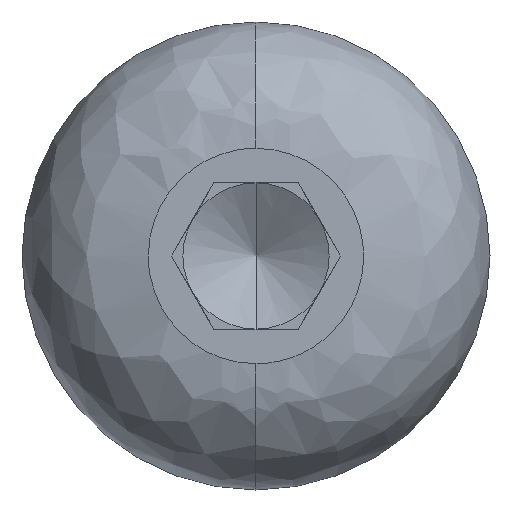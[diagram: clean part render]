
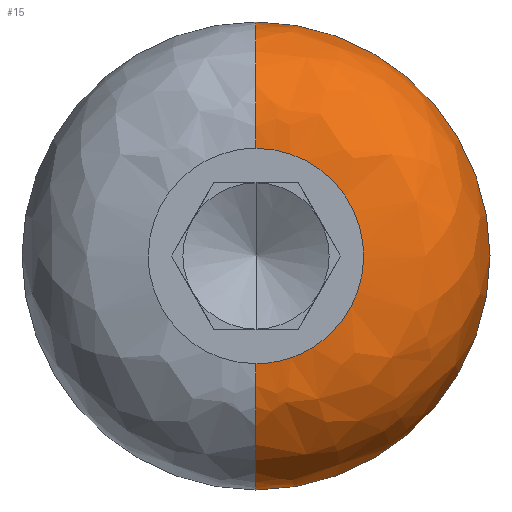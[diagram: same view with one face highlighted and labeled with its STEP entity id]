
A CAD part, left-side view. The second image highlights one B-rep face of the part: STEP entity #15.
In plain terms, the highlighted free-form (B-spline) face has degree [3, 3] with [4, 4] control points.
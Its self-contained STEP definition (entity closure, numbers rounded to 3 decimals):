
#3 = VERTEX_POINT ( 'NONE', #341 ) ;
#15 = ADVANCED_FACE ( 'NONE', ( #293 ), #241, .T. ) ;
#62 = CARTESIAN_POINT ( 'NONE',  ( 2.16, -8., 4. ) ) ;
#64 =( BOUNDED_CURVE ( )  B_SPLINE_CURVE ( 3, ( #436, #330, #549, #218 ),
 .UNSPECIFIED., .F., .F. ) 
 B_SPLINE_CURVE_WITH_KNOTS ( ( 4, 4 ),
 ( 0., 1. ),
 .UNSPECIFIED. ) 
 CURVE ( )  GEOMETRIC_REPRESENTATION_ITEM ( )  RATIONAL_B_SPLINE_CURVE ( ( 1., 0.333, 0.333, 1. ) ) 
 REPRESENTATION_ITEM ( '' )  );
#78 = CIRCLE ( 'NONE', #644, 4. ) ;
#87 = DIRECTION ( 'NONE',  ( 0., 1., 0. ) ) ;
#92 = DIRECTION ( 'NONE',  ( 1., 0., 0. ) ) ;
#104 = DIRECTION ( 'NONE',  ( 0., -1., 0. ) ) ;
#108 = VERTEX_POINT ( 'NONE', #338 ) ;
#124 = CARTESIAN_POINT ( 'NONE',  ( 2.16, -8., -4. ) ) ;
#126 = CARTESIAN_POINT ( 'NONE',  ( 0.895, -8., 4. ) ) ;
#132 = CARTESIAN_POINT ( 'NONE',  ( 2.16, 0., -4. ) ) ;
#156 = CARTESIAN_POINT ( 'NONE',  ( 0.895, 0., 4. ) ) ;
#158 = CARTESIAN_POINT ( 'NONE',  ( 2.16, 0., 0. ) ) ;
#191 = CARTESIAN_POINT ( 'NONE',  ( 0.895, -8., -4. ) ) ;
#192 = CIRCLE ( 'NONE', #737, 2.16 ) ;
#195 = CARTESIAN_POINT ( 'NONE',  ( 0.895, 0., -4. ) ) ;
#205 = CARTESIAN_POINT ( 'NONE',  ( 0., -6.211, 3.105 ) ) ;
#218 = CARTESIAN_POINT ( 'NONE',  ( 0., 0., -1.84 ) ) ;
#220 = CARTESIAN_POINT ( 'NONE',  ( 0., -6.211, -3.105 ) ) ;
#233 = CARTESIAN_POINT ( 'NONE',  ( 0., 0., 3.105 ) ) ;
#241 =( BOUNDED_SURFACE ( )  B_SPLINE_SURFACE ( 3, 3, ( 
 ( #447, #267, #255, #484 ),
 ( #260, #220, #205, #233 ),
 ( #195, #191, #126, #156 ),
 ( #132, #124, #62, #429 ) ),
 .UNSPECIFIED., .F., .F., .T. ) 
 B_SPLINE_SURFACE_WITH_KNOTS ( ( 4, 4 ),
 ( 4, 4 ),
 ( 0., 1. ),
 ( 0., 1. ),
 .UNSPECIFIED. ) 
 GEOMETRIC_REPRESENTATION_ITEM ( )  RATIONAL_B_SPLINE_SURFACE ( (
 ( 1., 0.333, 0.333, 1.),
 ( 0.805, 0.268, 0.268, 0.805),
 ( 0.805, 0.268, 0.268, 0.805),
 ( 1., 0.333, 0.333, 1.) ) ) 
 REPRESENTATION_ITEM ( '' )  SURFACE ( )  );
#255 = CARTESIAN_POINT ( 'NONE',  ( 0., -3.68, 1.84 ) ) ;
#260 = CARTESIAN_POINT ( 'NONE',  ( 0., 0., -3.105 ) ) ;
#267 = CARTESIAN_POINT ( 'NONE',  ( 0., -3.68, -1.84 ) ) ;
#293 = FACE_OUTER_BOUND ( 'NONE', #515, .T. ) ;
#311 = EDGE_CURVE ( 'NONE', #593, #3, #78, .T. ) ;
#330 = CARTESIAN_POINT ( 'NONE',  ( 0., -3.68, 1.84 ) ) ;
#338 = CARTESIAN_POINT ( 'NONE',  ( 0., 0., 1.84 ) ) ;
#341 = CARTESIAN_POINT ( 'NONE',  ( 2.16, 0., -4. ) ) ;
#365 = VERTEX_POINT ( 'NONE', #564 ) ;
#429 = CARTESIAN_POINT ( 'NONE',  ( 2.16, 0., 4. ) ) ;
#436 = CARTESIAN_POINT ( 'NONE',  ( 0., 0., 1.84 ) ) ;
#443 = CARTESIAN_POINT ( 'NONE',  ( 2.16, 0., 1.84 ) ) ;
#447 = CARTESIAN_POINT ( 'NONE',  ( 0., 0., -1.84 ) ) ;
#456 = ORIENTED_EDGE ( 'NONE', *, *, #647, .F. ) ;
#457 = CARTESIAN_POINT ( 'NONE',  ( 2.16, 0., -1.84 ) ) ;
#460 = ORIENTED_EDGE ( 'NONE', *, *, #311, .F. ) ;
#484 = CARTESIAN_POINT ( 'NONE',  ( 0., 0., 1.84 ) ) ;
#495 = ORIENTED_EDGE ( 'NONE', *, *, #655, .T. ) ;
#497 = DIRECTION ( 'NONE',  ( 0., 0., 1. ) ) ;
#513 = DIRECTION ( 'NONE',  ( 0., 0., -1. ) ) ;
#515 = EDGE_LOOP ( 'NONE', ( #495, #692, #460, #456 ) ) ;
#549 = CARTESIAN_POINT ( 'NONE',  ( 0., -3.68, -1.84 ) ) ;
#563 = CIRCLE ( 'NONE', #691, 2.16 ) ;
#564 = CARTESIAN_POINT ( 'NONE',  ( 0., 0., -1.84 ) ) ;
#593 = VERTEX_POINT ( 'NONE', #666 ) ;
#644 = AXIS2_PLACEMENT_3D ( 'NONE', #158, #92, #738 ) ;
#647 = EDGE_CURVE ( 'NONE', #108, #593, #192, .T. ) ;
#655 = EDGE_CURVE ( 'NONE', #108, #365, #64, .T. ) ;
#666 = CARTESIAN_POINT ( 'NONE',  ( 2.16, 0., 4. ) ) ;
#691 = AXIS2_PLACEMENT_3D ( 'NONE', #457, #104, #513 ) ;
#692 = ORIENTED_EDGE ( 'NONE', *, *, #735, .T. ) ;
#735 = EDGE_CURVE ( 'NONE', #365, #3, #563, .T. ) ;
#737 = AXIS2_PLACEMENT_3D ( 'NONE', #443, #87, #497 ) ;
#738 = DIRECTION ( 'NONE',  ( 0., 0., 1. ) ) ;
